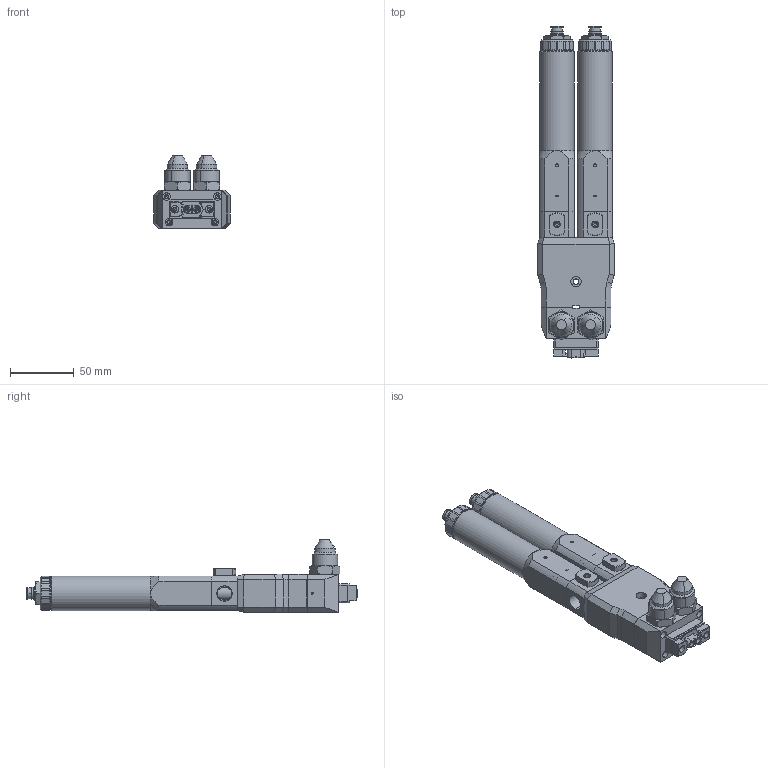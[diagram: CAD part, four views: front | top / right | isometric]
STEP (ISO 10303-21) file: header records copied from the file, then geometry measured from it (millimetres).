
FILE_DESCRIPTION (( 'STEP AP214' ), '1' );
FILE_NAME ('PDP-050-005BA.STEP', '2024-10-11T11:54:39', ( '' ), ( '' ), 'SwSTEP 2.0', 'SolidWorks 2024', '' );
FILE_SCHEMA (( 'AUTOMOTIVE_DESIGN' ));
Length unit declared in the file: millimetre
Products named in the file (1): PDP-050-005BA
Bounding box: 60 x 261 x 57.3 mm (x, y, z)
Volume: 341441.6 mm3; surface area: 89564.9 mm2
Topology: 13 solids, 13 shells, 1465 faces, 3638 edges, 2290 vertices
Faces by surface type: cylinder 584, plane 520, cone 335, bspline 22, torus 4
Full cylindrical faces by diameter (mm): 27 x2
Entity records: 57247 total; most frequent: CARTESIAN_POINT 22888, ORIENTED_EDGE 7184, DIRECTION 7133, EDGE_CURVE 3592, AXIS2_PLACEMENT_3D 2776, VERTEX_POINT 2290, EDGE_LOOP 1650, VECTOR 1581
